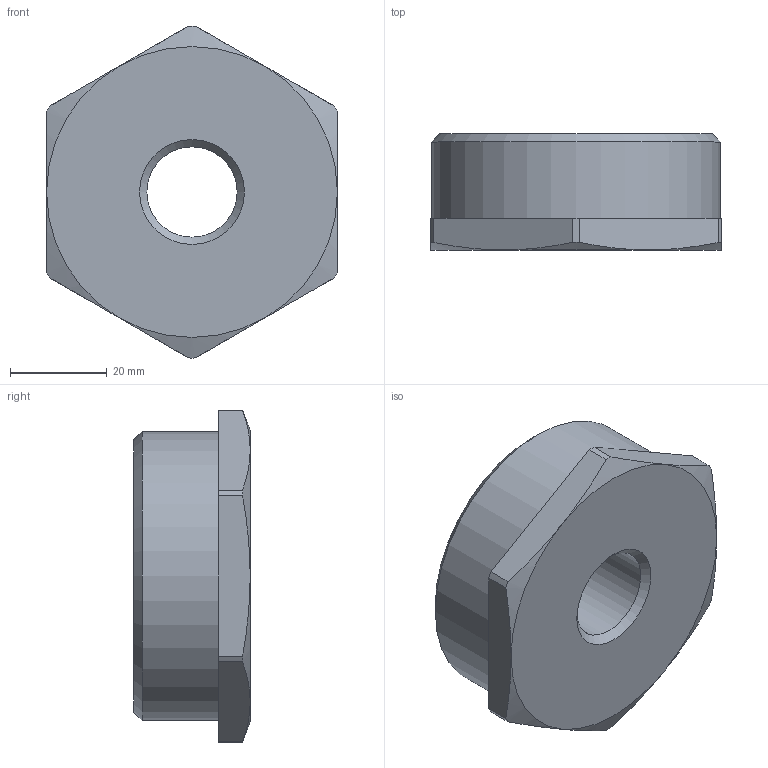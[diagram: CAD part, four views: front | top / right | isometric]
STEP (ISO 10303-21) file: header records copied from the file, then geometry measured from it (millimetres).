
FILE_DESCRIPTION(('STEP AP203'), '1');
FILE_NAME('ÂÐ.753128.039 - VTr.581.N.0904 Ôèò. ðåçüá', '2024-07-04T13:42:20', ('Boss'), (''), 'C3D Converter', 'C3D Toolkit', '');
FILE_SCHEMA(('CONFIG_CONTROL_DESIGN'));
Length unit declared in the file: millimetre
Products named in the file (1): ВР.753128.039
Bounding box: 60 x 24 x 68.5 mm (x, y, z)
Volume: 38369.6 mm3; surface area: 15623 mm2
Topology: 1 solids, 1 shells, 30 faces, 66 edges, 41 vertices
Faces by surface type: plane 11, cylinder 10, cone 9
Full cylindrical faces by diameter (mm): 18.632 x1, 27 x1, 49 x1, 59.614 x1
Entity records: 1052 total; most frequent: CARTESIAN_POINT 380, DIRECTION 138, ORIENTED_EDGE 118, AXIS2_PLACEMENT_3D 60, EDGE_CURVE 59, EDGE_LOOP 42, VERTEX_POINT 41, ADVANCED_FACE 30
